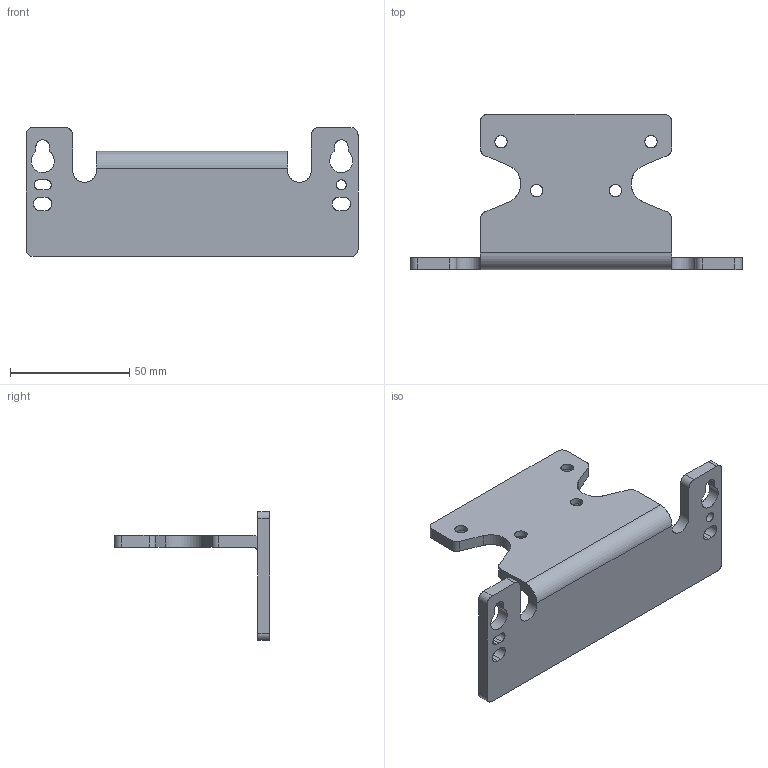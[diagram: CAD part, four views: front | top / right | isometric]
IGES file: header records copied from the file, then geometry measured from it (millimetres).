
Global section: file name: 3DCAD_BTX500M_BTU800M.igs; native system: NX V2306; preprocessor: SIEMENS PLM Software NX2306.1700; date: 20240619.094926; units: millimetre
Bounding box: 139 x 65 x 54 mm (x, y, z)
Surface area: 23819.1 mm2 (no closed solid volume)
Topology: 0 solids, 0 shells, 69 faces, 800 edges, 979 vertices
Faces by surface type: bspline 69
